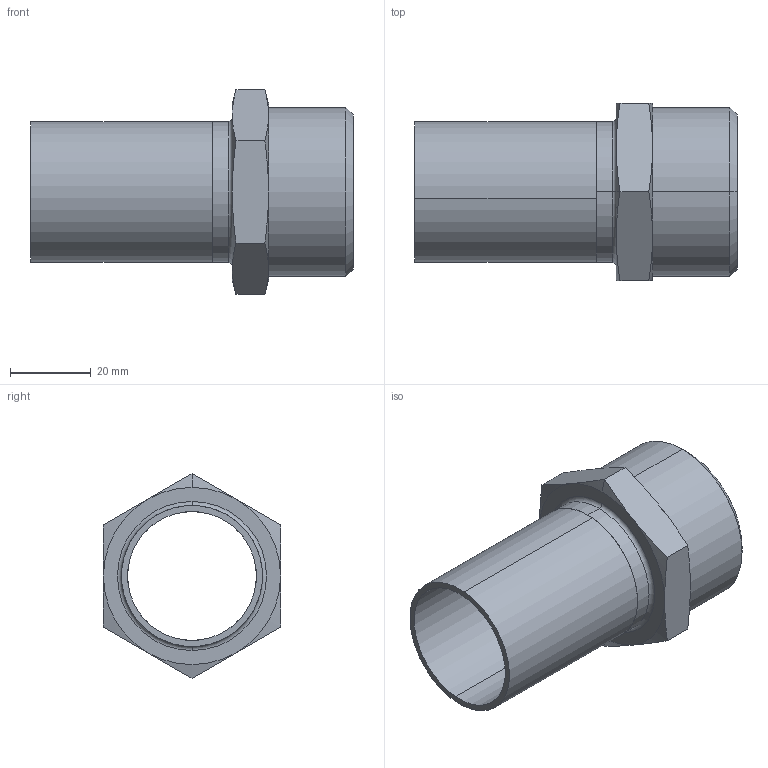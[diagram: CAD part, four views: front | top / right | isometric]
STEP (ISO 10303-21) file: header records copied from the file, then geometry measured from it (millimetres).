
FILE_DESCRIPTION (( 'STEP AP203' ), '1' );
FILE_NAME ('GDA6372.STEP', '2019-07-03T06:23:17', ( '' ), ( '' ), 'SwSTEP 2.0', 'SolidWorks 2015', '' );
FILE_SCHEMA (( 'CONFIG_CONTROL_DESIGN' ));
Length unit declared in the file: millimetre
Products named in the file (3): OD35｡ﾁ1.2; 眻奪35(酗48); GDA6372
Assembly tree (2 placements, depth 2):
  GDA6372
    OD35｡ﾁ1.2
    眻奪35(酗48)
Bounding box: 80 x 44 x 50.81 mm (x, y, z)
Volume: 22919.9 mm3; surface area: 19623.3 mm2
Topology: 2 solids, 2 shells, 44 faces, 92 edges, 54 vertices
Faces by surface type: cone 18, cylinder 12, plane 12, torus 2
Entity records: 1549 total; most frequent: CARTESIAN_POINT 315, DIRECTION 210, ORIENTED_EDGE 184, AXIS2_PLACEMENT_3D 93, EDGE_CURVE 92, VERTEX_POINT 54, EDGE_LOOP 50, ADVANCED_FACE 44
